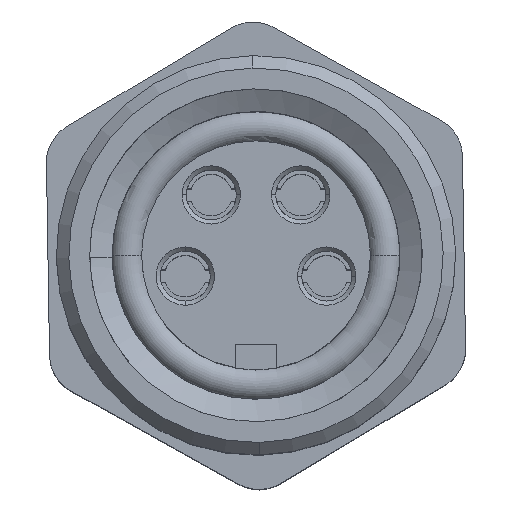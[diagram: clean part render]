
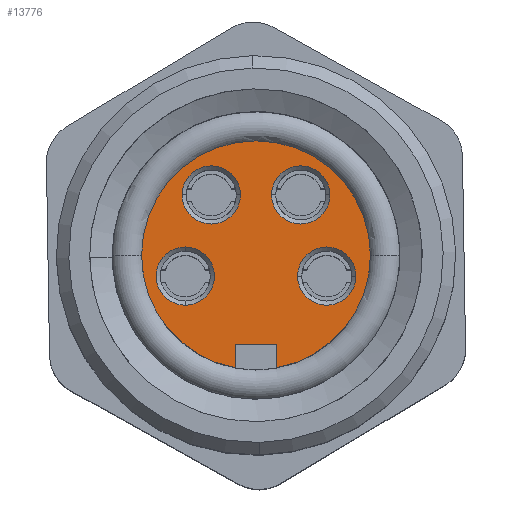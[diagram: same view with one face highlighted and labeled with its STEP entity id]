
A CAD part, top view. The second image highlights one B-rep face of the part: STEP entity #13776.
In plain terms, the highlighted planar face has unit normal (0, 0, 1).
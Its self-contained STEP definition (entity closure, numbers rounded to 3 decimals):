
#289 = DIRECTION ( 'NONE',  ( 0., 0., -1. ) ) ;
#411 = VERTEX_POINT ( 'NONE', #6378 ) ;
#412 = DIRECTION ( 'NONE',  ( 0., 0., -1. ) ) ;
#804 = CARTESIAN_POINT ( 'NONE',  ( 0.495, 2.859, 6.5 ) ) ;
#835 = ORIENTED_EDGE ( 'NONE', *, *, #5849, .F. ) ;
#911 = EDGE_CURVE ( 'NONE', #6310, #16066, #4538, .T. ) ;
#914 = VECTOR ( 'NONE', #6371, 1000. ) ;
#1306 = ORIENTED_EDGE ( 'NONE', *, *, #15054, .F. ) ;
#1419 = CARTESIAN_POINT ( 'NONE',  ( 1.695, -0.5, 6.5 ) ) ;
#1537 = CARTESIAN_POINT ( 'NONE',  ( -0.005, 0., 6.5 ) ) ;
#1664 = ORIENTED_EDGE ( 'NONE', *, *, #16310, .T. ) ;
#1814 = CARTESIAN_POINT ( 'NONE',  ( 2.745, 0., 6.5 ) ) ;
#1935 = CARTESIAN_POINT ( 'NONE',  ( 1.77, 1.45, 6.5 ) ) ;
#2206 = VERTEX_POINT ( 'NONE', #12474 ) ;
#2403 = CARTESIAN_POINT ( 'NONE',  ( -1.08, 1.45, 6.5 ) ) ;
#2552 = ORIENTED_EDGE ( 'NONE', *, *, #4917, .T. ) ;
#2687 = DIRECTION ( 'NONE',  ( 1., 0., 0. ) ) ;
#2706 = DIRECTION ( 'NONE',  ( 1., 0., 0. ) ) ;
#3088 = ORIENTED_EDGE ( 'NONE', *, *, #10351, .T. ) ;
#3112 = DIRECTION ( 'NONE',  ( 0., -1., 0. ) ) ;
#3169 = CIRCLE ( 'NONE', #6346, 0.7 ) ;
#3189 = EDGE_LOOP ( 'NONE', ( #1664, #2552 ) ) ;
#3516 = EDGE_CURVE ( 'NONE', #2206, #10956, #16872, .T. ) ;
#3587 = ORIENTED_EDGE ( 'NONE', *, *, #10364, .T. ) ;
#3595 = LINE ( 'NONE', #6426, #914 ) ;
#3922 = AXIS2_PLACEMENT_3D ( 'NONE', #8939, #10334, #8879 ) ;
#4163 = CARTESIAN_POINT ( 'NONE',  ( -0.005, 0., 6.5 ) ) ;
#4205 = CARTESIAN_POINT ( 'NONE',  ( 0.995, -0.5, 6.5 ) ) ;
#4448 = AXIS2_PLACEMENT_3D ( 'NONE', #16401, #13645, #5780 ) ;
#4538 = CIRCLE ( 'NONE', #11365, 0.7 ) ;
#4775 = LINE ( 'NONE', #4857, #9140 ) ;
#4826 = CIRCLE ( 'NONE', #5367, 0.7 ) ;
#4832 = ORIENTED_EDGE ( 'NONE', *, *, #12094, .F. ) ;
#4857 = CARTESIAN_POINT ( 'NONE',  ( -2.865, -2.133, 6.5 ) ) ;
#4917 = EDGE_CURVE ( 'NONE', #5459, #6957, #7896, .T. ) ;
#5018 = CIRCLE ( 'NONE', #9921, 0.7 ) ;
#5076 = EDGE_CURVE ( 'NONE', #7409, #2206, #9341, .T. ) ;
#5293 = AXIS2_PLACEMENT_3D ( 'NONE', #4163, #5536, #8232 ) ;
#5367 = AXIS2_PLACEMENT_3D ( 'NONE', #16364, #12316, #7030 ) ;
#5459 = VERTEX_POINT ( 'NONE', #4205 ) ;
#5536 = DIRECTION ( 'NONE',  ( 0., 0., -1. ) ) ;
#5630 = EDGE_LOOP ( 'NONE', ( #3587, #16692 ) ) ;
#5727 = VERTEX_POINT ( 'NONE', #16362 ) ;
#5780 = DIRECTION ( 'NONE',  ( 0., -1., 0. ) ) ;
#5849 = EDGE_CURVE ( 'NONE', #12807, #13097, #9910, .T. ) ;
#5940 = CARTESIAN_POINT ( 'NONE',  ( 1.695, -0.5, 6.5 ) ) ;
#5965 = VECTOR ( 'NONE', #6092, 1000. ) ;
#5985 = EDGE_CURVE ( 'NONE', #10956, #12807, #13588, .T. ) ;
#6092 = DIRECTION ( 'NONE',  ( 0., 1., 0. ) ) ;
#6200 = VERTEX_POINT ( 'NONE', #1935 ) ;
#6310 = VERTEX_POINT ( 'NONE', #10736 ) ;
#6346 = AXIS2_PLACEMENT_3D ( 'NONE', #8173, #8113, #16041 ) ;
#6371 = DIRECTION ( 'NONE',  ( 0., -1., 0. ) ) ;
#6378 = CARTESIAN_POINT ( 'NONE',  ( -0.505, -2.133, 6.5 ) ) ;
#6408 = DIRECTION ( 'NONE',  ( 1., 0., 0. ) ) ;
#6426 = CARTESIAN_POINT ( 'NONE',  ( -0.505, 2.859, 6.5 ) ) ;
#6521 = AXIS2_PLACEMENT_3D ( 'NONE', #1419, #6929, #2687 ) ;
#6686 = CARTESIAN_POINT ( 'NONE',  ( -1.78, 1.45, 6.5 ) ) ;
#6929 = DIRECTION ( 'NONE',  ( 0., 0., -1. ) ) ;
#6957 = VERTEX_POINT ( 'NONE', #17015 ) ;
#6965 = AXIS2_PLACEMENT_3D ( 'NONE', #13232, #289, #2706 ) ;
#7030 = DIRECTION ( 'NONE',  ( 1., 0., 0. ) ) ;
#7060 = DIRECTION ( 'NONE',  ( 0., 0., -1. ) ) ;
#7275 = CIRCLE ( 'NONE', #16400, 0.7 ) ;
#7357 = DIRECTION ( 'NONE',  ( 0., 0., -1. ) ) ;
#7409 = VERTEX_POINT ( 'NONE', #15070 ) ;
#7651 = FACE_BOUND ( 'NONE', #10780, .T. ) ;
#7662 = CARTESIAN_POINT ( 'NONE',  ( -1.705, -1.2, 6.5 ) ) ;
#7896 = CIRCLE ( 'NONE', #6521, 0.7 ) ;
#8113 = DIRECTION ( 'NONE',  ( 0., 0., -1. ) ) ;
#8173 = CARTESIAN_POINT ( 'NONE',  ( 1.07, 1.45, 6.5 ) ) ;
#8200 = DIRECTION ( 'NONE',  ( 1., 0., 0. ) ) ;
#8232 = DIRECTION ( 'NONE',  ( 1., 0., 0. ) ) ;
#8281 = FACE_BOUND ( 'NONE', #5630, .T. ) ;
#8668 = EDGE_LOOP ( 'NONE', ( #835, #13877, #17002, #12862, #1306, #4832 ) ) ;
#8730 = VERTEX_POINT ( 'NONE', #7662 ) ;
#8860 = EDGE_CURVE ( 'NONE', #5727, #6200, #3169, .T. ) ;
#8879 = DIRECTION ( 'NONE',  ( -1., 0., 0. ) ) ;
#8939 = CARTESIAN_POINT ( 'NONE',  ( -2.865, 2.859, 6.5 ) ) ;
#9108 = EDGE_CURVE ( 'NONE', #16066, #6310, #4826, .T. ) ;
#9140 = VECTOR ( 'NONE', #13730, 1000. ) ;
#9341 = CIRCLE ( 'NONE', #15339, 2.75 ) ;
#9542 = AXIS2_PLACEMENT_3D ( 'NONE', #5940, #7357, #15074 ) ;
#9597 = CIRCLE ( 'NONE', #4448, 0.7 ) ;
#9771 = EDGE_CURVE ( 'NONE', #13975, #8730, #9597, .T. ) ;
#9910 = LINE ( 'NONE', #804, #5965 ) ;
#9921 = AXIS2_PLACEMENT_3D ( 'NONE', #10850, #7060, #16049 ) ;
#10212 = ORIENTED_EDGE ( 'NONE', *, *, #9108, .T. ) ;
#10334 = DIRECTION ( 'NONE',  ( 0., 0., -1. ) ) ;
#10351 = EDGE_CURVE ( 'NONE', #8730, #13975, #7275, .T. ) ;
#10364 = EDGE_CURVE ( 'NONE', #6200, #5727, #5018, .T. ) ;
#10736 = CARTESIAN_POINT ( 'NONE',  ( -0.38, 1.45, 6.5 ) ) ;
#10780 = EDGE_LOOP ( 'NONE', ( #3088, #12864 ) ) ;
#10850 = CARTESIAN_POINT ( 'NONE',  ( 1.07, 1.45, 6.5 ) ) ;
#10903 = CARTESIAN_POINT ( 'NONE',  ( -1.705, 0.2, 6.5 ) ) ;
#10956 = VERTEX_POINT ( 'NONE', #1814 ) ;
#11365 = AXIS2_PLACEMENT_3D ( 'NONE', #2403, #15555, #6408 ) ;
#11486 = PLANE ( 'NONE',  #3922 ) ;
#11783 = EDGE_LOOP ( 'NONE', ( #13118, #10212 ) ) ;
#12094 = EDGE_CURVE ( 'NONE', #13097, #411, #4775, .T. ) ;
#12142 = DIRECTION ( 'NONE',  ( 0., 0., -1. ) ) ;
#12316 = DIRECTION ( 'NONE',  ( 0., 0., -1. ) ) ;
#12418 = FACE_OUTER_BOUND ( 'NONE', #8668, .T. ) ;
#12474 = CARTESIAN_POINT ( 'NONE',  ( -2.755, 0., 6.5 ) ) ;
#12631 = FACE_BOUND ( 'NONE', #11783, .T. ) ;
#12807 = VERTEX_POINT ( 'NONE', #14813 ) ;
#12862 = ORIENTED_EDGE ( 'NONE', *, *, #5076, .F. ) ;
#12864 = ORIENTED_EDGE ( 'NONE', *, *, #9771, .T. ) ;
#13097 = VERTEX_POINT ( 'NONE', #15325 ) ;
#13118 = ORIENTED_EDGE ( 'NONE', *, *, #911, .T. ) ;
#13232 = CARTESIAN_POINT ( 'NONE',  ( -0.005, 0., 6.5 ) ) ;
#13306 = CIRCLE ( 'NONE', #9542, 0.7 ) ;
#13467 = CARTESIAN_POINT ( 'NONE',  ( -1.705, -0.5, 6.5 ) ) ;
#13588 = CIRCLE ( 'NONE', #6965, 2.75 ) ;
#13645 = DIRECTION ( 'NONE',  ( 0., 0., -1. ) ) ;
#13730 = DIRECTION ( 'NONE',  ( -1., 0., 0. ) ) ;
#13776 = ADVANCED_FACE ( 'NONE', ( #12418, #15270, #8281, #12631, #7651 ), #11486, .F. ) ;
#13877 = ORIENTED_EDGE ( 'NONE', *, *, #5985, .F. ) ;
#13975 = VERTEX_POINT ( 'NONE', #10903 ) ;
#14813 = CARTESIAN_POINT ( 'NONE',  ( 0.495, -2.704, 6.5 ) ) ;
#15054 = EDGE_CURVE ( 'NONE', #411, #7409, #3595, .T. ) ;
#15070 = CARTESIAN_POINT ( 'NONE',  ( -0.505, -2.704, 6.5 ) ) ;
#15074 = DIRECTION ( 'NONE',  ( 1., 0., 0. ) ) ;
#15270 = FACE_BOUND ( 'NONE', #3189, .T. ) ;
#15325 = CARTESIAN_POINT ( 'NONE',  ( 0.495, -2.133, 6.5 ) ) ;
#15339 = AXIS2_PLACEMENT_3D ( 'NONE', #1537, #12142, #8200 ) ;
#15555 = DIRECTION ( 'NONE',  ( 0., 0., -1. ) ) ;
#16041 = DIRECTION ( 'NONE',  ( 1., 0., 0. ) ) ;
#16049 = DIRECTION ( 'NONE',  ( 1., 0., 0. ) ) ;
#16066 = VERTEX_POINT ( 'NONE', #6686 ) ;
#16310 = EDGE_CURVE ( 'NONE', #6957, #5459, #13306, .T. ) ;
#16362 = CARTESIAN_POINT ( 'NONE',  ( 0.37, 1.45, 6.5 ) ) ;
#16364 = CARTESIAN_POINT ( 'NONE',  ( -1.08, 1.45, 6.5 ) ) ;
#16400 = AXIS2_PLACEMENT_3D ( 'NONE', #13467, #412, #3112 ) ;
#16401 = CARTESIAN_POINT ( 'NONE',  ( -1.705, -0.5, 6.5 ) ) ;
#16692 = ORIENTED_EDGE ( 'NONE', *, *, #8860, .T. ) ;
#16872 = CIRCLE ( 'NONE', #5293, 2.75 ) ;
#17002 = ORIENTED_EDGE ( 'NONE', *, *, #3516, .F. ) ;
#17015 = CARTESIAN_POINT ( 'NONE',  ( 2.395, -0.5, 6.5 ) ) ;
